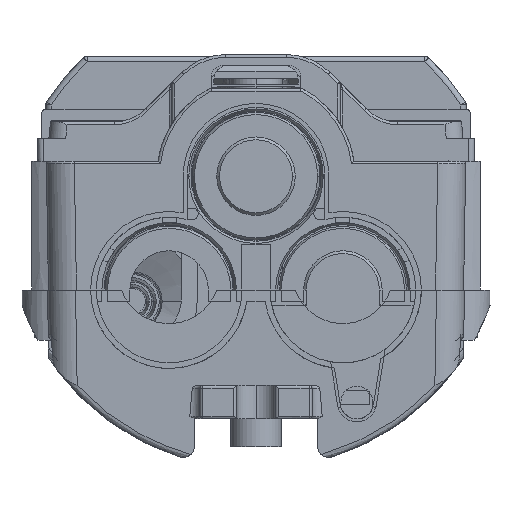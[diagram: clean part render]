
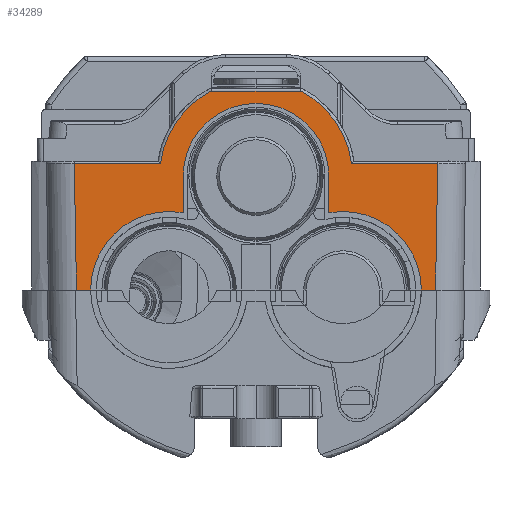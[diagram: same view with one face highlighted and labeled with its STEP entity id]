
A CAD part, left-side view. The second image highlights one B-rep face of the part: STEP entity #34289.
In plain terms, the highlighted planar face has unit normal (-1, 0, 0).
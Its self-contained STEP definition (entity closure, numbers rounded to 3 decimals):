
#322 = VECTOR ( 'NONE', #30201, 1000. ) ;
#1400 = DIRECTION ( 'NONE',  ( 0., -0.017, 1. ) ) ;
#1520 = LINE ( 'NONE', #18429, #35864 ) ;
#1657 = VECTOR ( 'NONE', #1836, 1000. ) ;
#1704 = LINE ( 'NONE', #33161, #32300 ) ;
#1836 = DIRECTION ( 'NONE',  ( 0., 0., -1. ) ) ;
#1863 = DIRECTION ( 'NONE',  ( -1., 0., 0. ) ) ;
#2277 = AXIS2_PLACEMENT_3D ( 'NONE', #25761, #1863, #29791 ) ;
#2973 = DIRECTION ( 'NONE',  ( 0., 1., 0. ) ) ;
#3687 = EDGE_CURVE ( 'NONE', #25371, #13053, #42198, .T. ) ;
#4360 = DIRECTION ( 'NONE',  ( -1., 0., 0. ) ) ;
#5760 = LINE ( 'NONE', #46534, #15140 ) ;
#6034 = CARTESIAN_POINT ( 'NONE',  ( -260., 0., 54.3 ) ) ;
#7243 = EDGE_CURVE ( 'NONE', #15519, #10494, #25524, .T. ) ;
#7567 = PLANE ( 'NONE',  #43684 ) ;
#8258 = ORIENTED_EDGE ( 'NONE', *, *, #26320, .F. ) ;
#8328 = ORIENTED_EDGE ( 'NONE', *, *, #11110, .F. ) ;
#8690 = CARTESIAN_POINT ( 'NONE',  ( -260., 8.05, 69.5 ) ) ;
#8693 = ORIENTED_EDGE ( 'NONE', *, *, #7243, .T. ) ;
#8835 = VERTEX_POINT ( 'NONE', #22676 ) ;
#9029 = VECTOR ( 'NONE', #19824, 1000. ) ;
#10494 = VERTEX_POINT ( 'NONE', #48435 ) ;
#11110 = EDGE_CURVE ( 'NONE', #38219, #11445, #32175, .T. ) ;
#11301 = DIRECTION ( 'NONE',  ( 0., -1., 0. ) ) ;
#11445 = VERTEX_POINT ( 'NONE', #22673 ) ;
#11597 = DIRECTION ( 'NONE',  ( 1., 0., 0. ) ) ;
#11645 = VECTOR ( 'NONE', #2973, 1000. ) ;
#12245 = LINE ( 'NONE', #29774, #1657 ) ;
#13053 = VERTEX_POINT ( 'NONE', #48925 ) ;
#13267 = ORIENTED_EDGE ( 'NONE', *, *, #39041, .T. ) ;
#13749 = FACE_OUTER_BOUND ( 'NONE', #19613, .T. ) ;
#13950 = ORIENTED_EDGE ( 'NONE', *, *, #25782, .T. ) ;
#14015 = LINE ( 'NONE', #35244, #32776 ) ;
#14779 = ORIENTED_EDGE ( 'NONE', *, *, #17962, .T. ) ;
#14966 = CARTESIAN_POINT ( 'NONE',  ( -260., -13., 54.3 ) ) ;
#15140 = VECTOR ( 'NONE', #26631, 1000. ) ;
#15519 = VERTEX_POINT ( 'NONE', #33144 ) ;
#15918 = CIRCLE ( 'NONE', #19519, 14. ) ;
#17369 = CARTESIAN_POINT ( 'NONE',  ( -260., 15.5, 34. ) ) ;
#17816 = EDGE_CURVE ( 'NONE', #23033, #51287, #22657, .T. ) ;
#17962 = EDGE_CURVE ( 'NONE', #36105, #15519, #5760, .T. ) ;
#18429 = CARTESIAN_POINT ( 'NONE',  ( -260., 32.762, 76.074 ) ) ;
#18842 = ORIENTED_EDGE ( 'NONE', *, *, #46587, .F. ) ;
#19519 = AXIS2_PLACEMENT_3D ( 'NONE', #28288, #4360, #32310 ) ;
#19613 = EDGE_LOOP ( 'NONE', ( #28425, #46529, #13267, #46743, #40418, #8258, #18842, #8328, #25891, #14779, #8693, #20735, #39373, #13950 ) ) ;
#19824 = DIRECTION ( 'NONE',  ( 0., 1., 0. ) ) ;
#20735 = ORIENTED_EDGE ( 'NONE', *, *, #38780, .T. ) ;
#20878 = LINE ( 'NONE', #47774, #9029 ) ;
#21383 = DIRECTION ( 'NONE',  ( 0., -1., 0. ) ) ;
#22657 = CIRCLE ( 'NONE', #43910, 14. ) ;
#22673 = CARTESIAN_POINT ( 'NONE',  ( -260., -13., 54.3 ) ) ;
#22676 = CARTESIAN_POINT ( 'NONE',  ( -260., 32.028, 34. ) ) ;
#23033 = VERTEX_POINT ( 'NONE', #27079 ) ;
#23443 = DIRECTION ( 'NONE',  ( -1., 0., 0. ) ) ;
#23489 = EDGE_CURVE ( 'NONE', #46788, #45509, #43509, .T. ) ;
#23928 = CARTESIAN_POINT ( 'NONE',  ( -260., -32.74, 74.782 ) ) ;
#24591 = CARTESIAN_POINT ( 'NONE',  ( -260., 13., 54.3 ) ) ;
#24921 = DIRECTION ( 'NONE',  ( 0., 0., -1. ) ) ;
#25371 = VERTEX_POINT ( 'NONE', #25877 ) ;
#25524 = LINE ( 'NONE', #23928, #45538 ) ;
#25761 = CARTESIAN_POINT ( 'NONE',  ( -260., 0., 54.3 ) ) ;
#25782 = EDGE_CURVE ( 'NONE', #13053, #28738, #1704, .T. ) ;
#25877 = CARTESIAN_POINT ( 'NONE',  ( -260., -17.059, 56.5 ) ) ;
#25891 = ORIENTED_EDGE ( 'NONE', *, *, #43474, .F. ) ;
#26320 = EDGE_CURVE ( 'NONE', #43851, #23033, #12245, .T. ) ;
#26631 = DIRECTION ( 'NONE',  ( 0., -1., 0. ) ) ;
#27079 = CARTESIAN_POINT ( 'NONE',  ( -260., 13., 47.775 ) ) ;
#28288 = CARTESIAN_POINT ( 'NONE',  ( -260., -15.5, 34. ) ) ;
#28425 = ORIENTED_EDGE ( 'NONE', *, *, #35505, .T. ) ;
#28738 = VERTEX_POINT ( 'NONE', #8690 ) ;
#29138 = DIRECTION ( 'NONE',  ( 0., 1., 0. ) ) ;
#29774 = CARTESIAN_POINT ( 'NONE',  ( -260., 13., 54.3 ) ) ;
#29791 = DIRECTION ( 'NONE',  ( 0., 0., -1. ) ) ;
#30201 = DIRECTION ( 'NONE',  ( 0., 0., 1. ) ) ;
#30335 = DIRECTION ( 'NONE',  ( 0., -0.017, -1. ) ) ;
#32175 = LINE ( 'NONE', #14966, #322 ) ;
#32300 = VECTOR ( 'NONE', #29138, 1000. ) ;
#32310 = DIRECTION ( 'NONE',  ( 0., -1., 0. ) ) ;
#32776 = VECTOR ( 'NONE', #11301, 1000. ) ;
#33144 = CARTESIAN_POINT ( 'NONE',  ( -260., -32.028, 34. ) ) ;
#33161 = CARTESIAN_POINT ( 'NONE',  ( -260., 37.029, 69.5 ) ) ;
#34289 = ADVANCED_FACE ( 'NONE', ( #13749 ), #7567, .F. ) ;
#35244 = CARTESIAN_POINT ( 'NONE',  ( -260., 37.029, 34. ) ) ;
#35505 = EDGE_CURVE ( 'NONE', #28738, #46788, #43018, .T. ) ;
#35864 = VECTOR ( 'NONE', #30335, 1000. ) ;
#36105 = VERTEX_POINT ( 'NONE', #43004 ) ;
#36384 = CIRCLE ( 'NONE', #38373, 13. ) ;
#38219 = VERTEX_POINT ( 'NONE', #47663 ) ;
#38373 = AXIS2_PLACEMENT_3D ( 'NONE', #47337, #23443, #51371 ) ;
#38702 = EDGE_CURVE ( 'NONE', #8835, #51287, #14015, .T. ) ;
#38780 = EDGE_CURVE ( 'NONE', #10494, #25371, #20878, .T. ) ;
#38883 = CARTESIAN_POINT ( 'NONE',  ( -260., 29.5, 34. ) ) ;
#39041 = EDGE_CURVE ( 'NONE', #45509, #8835, #1520, .T. ) ;
#39373 = ORIENTED_EDGE ( 'NONE', *, *, #3687, .T. ) ;
#39507 = DIRECTION ( 'NONE',  ( 0., 0., -1. ) ) ;
#40418 = ORIENTED_EDGE ( 'NONE', *, *, #17816, .F. ) ;
#40512 = AXIS2_PLACEMENT_3D ( 'NONE', #6034, #49837, #24921 ) ;
#42198 = CIRCLE ( 'NONE', #40512, 17.2 ) ;
#43004 = CARTESIAN_POINT ( 'NONE',  ( -260., -29.5, 34. ) ) ;
#43018 = CIRCLE ( 'NONE', #2277, 17.2 ) ;
#43474 = EDGE_CURVE ( 'NONE', #36105, #38219, #15918, .T. ) ;
#43509 = LINE ( 'NONE', #50785, #11645 ) ;
#43684 = AXIS2_PLACEMENT_3D ( 'NONE', #47202, #11597, #39507 ) ;
#43851 = VERTEX_POINT ( 'NONE', #24591 ) ;
#43910 = AXIS2_PLACEMENT_3D ( 'NONE', #17369, #45331, #21383 ) ;
#44258 = CARTESIAN_POINT ( 'NONE',  ( -260., 32.421, 56.5 ) ) ;
#45331 = DIRECTION ( 'NONE',  ( -1., 0., 0. ) ) ;
#45509 = VERTEX_POINT ( 'NONE', #44258 ) ;
#45538 = VECTOR ( 'NONE', #1400, 1000. ) ;
#45590 = CARTESIAN_POINT ( 'NONE',  ( -260., 17.059, 56.5 ) ) ;
#46529 = ORIENTED_EDGE ( 'NONE', *, *, #23489, .T. ) ;
#46534 = CARTESIAN_POINT ( 'NONE',  ( -260., 37.029, 34. ) ) ;
#46587 = EDGE_CURVE ( 'NONE', #11445, #43851, #36384, .T. ) ;
#46743 = ORIENTED_EDGE ( 'NONE', *, *, #38702, .T. ) ;
#46788 = VERTEX_POINT ( 'NONE', #45590 ) ;
#47202 = CARTESIAN_POINT ( 'NONE',  ( -260., 37.029, 76. ) ) ;
#47337 = CARTESIAN_POINT ( 'NONE',  ( -260., 0., 54.3 ) ) ;
#47663 = CARTESIAN_POINT ( 'NONE',  ( -260., -13., 47.775 ) ) ;
#47774 = CARTESIAN_POINT ( 'NONE',  ( -260., 37.029, 56.5 ) ) ;
#48435 = CARTESIAN_POINT ( 'NONE',  ( -260., -32.421, 56.5 ) ) ;
#48925 = CARTESIAN_POINT ( 'NONE',  ( -260., -8.05, 69.5 ) ) ;
#49837 = DIRECTION ( 'NONE',  ( -1., 0., 0. ) ) ;
#50785 = CARTESIAN_POINT ( 'NONE',  ( -260., 37.029, 56.5 ) ) ;
#51287 = VERTEX_POINT ( 'NONE', #38883 ) ;
#51371 = DIRECTION ( 'NONE',  ( 0., -1., 0. ) ) ;
